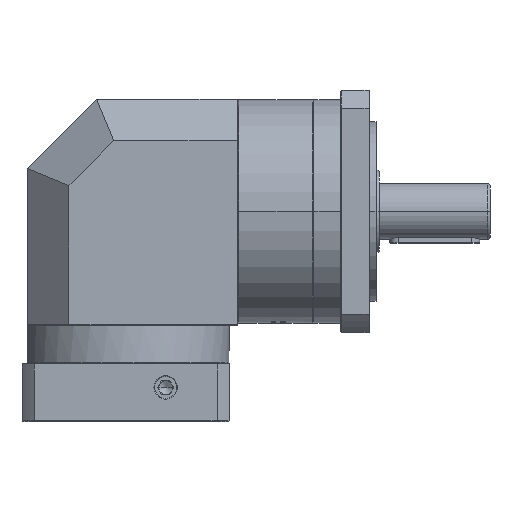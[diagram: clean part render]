
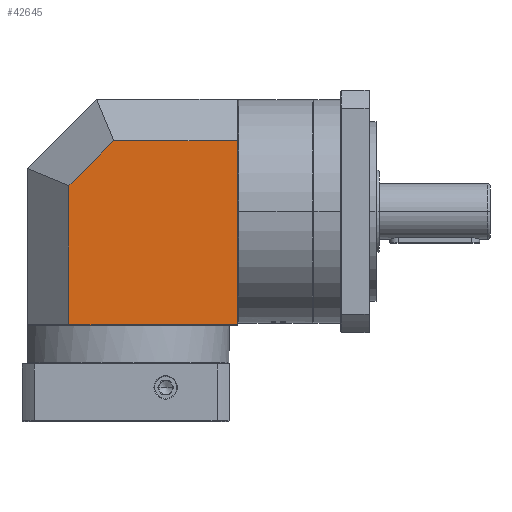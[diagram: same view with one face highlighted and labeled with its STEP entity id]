
A CAD part, top view. The second image highlights one B-rep face of the part: STEP entity #42645.
In plain terms, the highlighted planar face has unit normal (0, 0, 1).
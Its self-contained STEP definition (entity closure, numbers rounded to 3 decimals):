
#1169 = LINE ( 'NONE', #51533, #108200 ) ;
#1745 = EDGE_LOOP ( 'NONE', ( #47845, #106568, #66033, #131636, #29819 ) ) ;
#4619 = DIRECTION ( 'NONE',  ( 1., 0., 0. ) ) ;
#14184 = CARTESIAN_POINT ( 'NONE',  ( 49.885, -123.438, 351.969 ) ) ;
#19737 = VERTEX_POINT ( 'NONE', #142810 ) ;
#21190 = CARTESIAN_POINT ( 'NONE',  ( 49.885, 9.562, 351.969 ) ) ;
#23764 = DIRECTION ( 'NONE',  ( 0., 0., 1. ) ) ;
#29819 = ORIENTED_EDGE ( 'NONE', *, *, #120165, .T. ) ;
#36809 = CARTESIAN_POINT ( 'NONE',  ( -25.715, -123.438, 351.969 ) ) ;
#38055 = FACE_OUTER_BOUND ( 'NONE', #1745, .T. ) ;
#39292 = VECTOR ( 'NONE', #124274, 1000. ) ;
#41483 = EDGE_CURVE ( 'NONE', #93594, #81806, #73914, .T. ) ;
#42645 = ADVANCED_FACE ( 'NONE', ( #38055 ), #119260, .T. ) ;
#47845 = ORIENTED_EDGE ( 'NONE', *, *, #49550, .T. ) ;
#49550 = EDGE_CURVE ( 'NONE', #79072, #81806, #121390, .T. ) ;
#51533 = CARTESIAN_POINT ( 'NONE',  ( -71.815, -42.188, 351.969 ) ) ;
#53880 = CARTESIAN_POINT ( 'NONE',  ( -39.389, 9.562, 351.969 ) ) ;
#63630 = LINE ( 'NONE', #53880, #39292 ) ;
#66033 = ORIENTED_EDGE ( 'NONE', *, *, #119702, .F. ) ;
#68656 = DIRECTION ( 'NONE',  ( 0., -1., 0. ) ) ;
#73914 = LINE ( 'NONE', #140587, #137804 ) ;
#75651 = DIRECTION ( 'NONE',  ( 0., -1., 0. ) ) ;
#78390 = LINE ( 'NONE', #87948, #82194 ) ;
#79072 = VERTEX_POINT ( 'NONE', #118673 ) ;
#81806 = VERTEX_POINT ( 'NONE', #14184 ) ;
#82194 = VECTOR ( 'NONE', #4619, 1000. ) ;
#87948 = CARTESIAN_POINT ( 'NONE',  ( -25.715, 9.562, 351.969 ) ) ;
#89442 = VECTOR ( 'NONE', #120741, 1000. ) ;
#90423 = AXIS2_PLACEMENT_3D ( 'NONE', #118751, #23764, #132375 ) ;
#93594 = VERTEX_POINT ( 'NONE', #21190 ) ;
#94835 = VERTEX_POINT ( 'NONE', #122795 ) ;
#106568 = ORIENTED_EDGE ( 'NONE', *, *, #41483, .F. ) ;
#108200 = VECTOR ( 'NONE', #75651, 1000. ) ;
#118673 = CARTESIAN_POINT ( 'NONE',  ( -71.815, -123.438, 351.969 ) ) ;
#118751 = CARTESIAN_POINT ( 'NONE',  ( -25.715, -42.188, 351.969 ) ) ;
#119260 = PLANE ( 'NONE',  #90423 ) ;
#119702 = EDGE_CURVE ( 'NONE', #19737, #93594, #78390, .T. ) ;
#120165 = EDGE_CURVE ( 'NONE', #94835, #79072, #1169, .T. ) ;
#120741 = DIRECTION ( 'NONE',  ( 1., 0., 0. ) ) ;
#121390 = LINE ( 'NONE', #36809, #89442 ) ;
#122795 = CARTESIAN_POINT ( 'NONE',  ( -71.815, -22.864, 351.969 ) ) ;
#124274 = DIRECTION ( 'NONE',  ( -0.707, -0.707, 0. ) ) ;
#128129 = EDGE_CURVE ( 'NONE', #19737, #94835, #63630, .T. ) ;
#131636 = ORIENTED_EDGE ( 'NONE', *, *, #128129, .T. ) ;
#132375 = DIRECTION ( 'NONE',  ( 1., 0., 0. ) ) ;
#137804 = VECTOR ( 'NONE', #68656, 1000. ) ;
#140587 = CARTESIAN_POINT ( 'NONE',  ( 49.885, -42.188, 351.969 ) ) ;
#142810 = CARTESIAN_POINT ( 'NONE',  ( -39.389, 9.562, 351.969 ) ) ;
